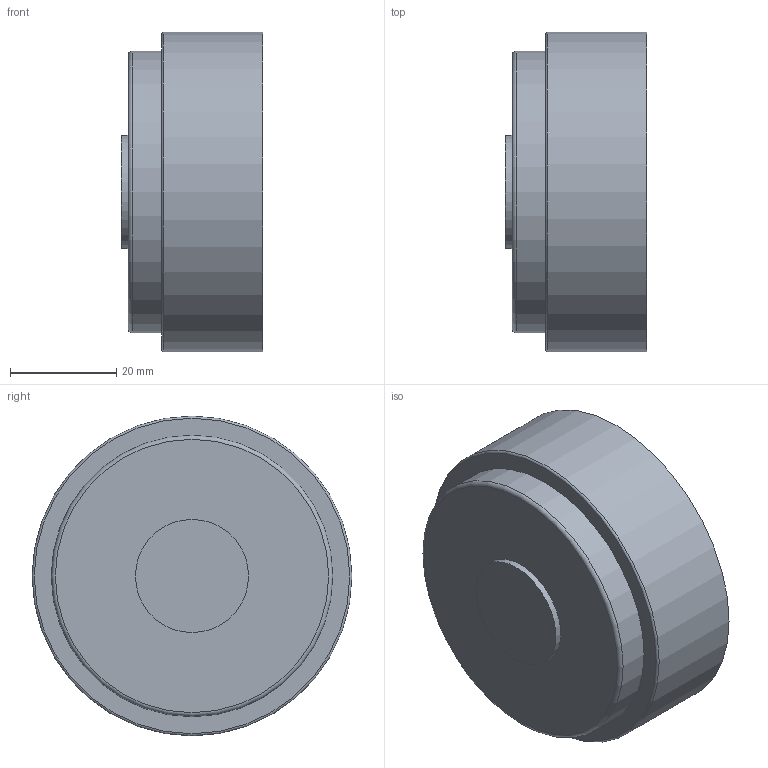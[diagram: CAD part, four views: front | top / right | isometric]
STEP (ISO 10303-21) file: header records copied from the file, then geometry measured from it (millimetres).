
FILE_DESCRIPTION(/* description */ ('VIC STRENGTHIN CAP No E496 w/Tap 1/2 inch BSPT (Concentric)','CAx-IF Rec.Pracs.---Representation and Presentation of Product Manufacturing Information (PMI)---4.0---2014-10-13'),/* implementation_level */ '2;1');
FILE_NAME(/* name */ 'C:\Users\Vjadhav\AppData\Roaming\Autodesk\ApplicationPlugins\Back Up\Victaulic_SS-StrengThin 100_Cap With Tap_No E496 (ST1)\Victaulic_SS-StrengThin 100_Cap With Tap_No E496 (ST1)_02.0x0.5 (50x15).stp',/* time_stamp */ '2020-07-07T18:46:42+05:00',/* author */ ('jheald'),/* organization */ ('Victaulic'),/* preprocessor_version */ 'ST-DEVELOPER v17.2',/* originating_system */ 'Autodesk Inventor 2019',/* authorisation */ '');
FILE_SCHEMA (('AP242_MANAGED_MODEL_BASED_3D_ENGINEERING_MIM_LF { 1 0 10303 442 1 1 4 }'));
Length unit declared in the file: inch
Products named in the file (1): E496-02.0x0.5
Bounding box: 26.67 x 60.33 x 60.33 mm (x, y, z)
Volume: 45834 mm3; surface area: 12142.4 mm2
Topology: 1 solids, 1 shells, 11 faces, 26 edges, 20 vertices
Faces by surface type: plane 5, cylinder 4, torus 2
Full cylindrical faces by diameter (mm): 21.336 x1, 52.502 x1, 53.086 x1, 60.325 x1
Entity records: 489 total; most frequent: DIRECTION 98, CARTESIAN_POINT 75, ORIENTED_EDGE 52, AXIS2_PLACEMENT_3D 47, EDGE_CURVE 26, CIRCLE 22, VERTEX_POINT 20, EDGE_LOOP 14
